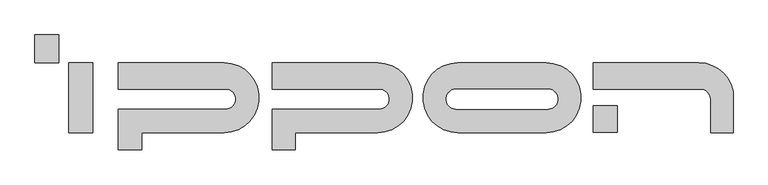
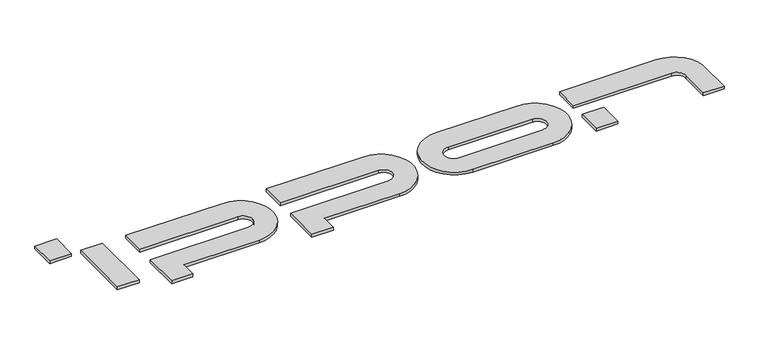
"""IFC4 building model written with IfcOpenShell, lengths in millimetres: proxy geometry, IPPON_Логотип : IPPON_Логотип."""

from ifc_helpers import new_model, si_unit, point, frame_2d, origin, origin_with_axes, place, context, project, spatial, polyline, circle_curve, trimmed, segment, composite_curve, outline, extrude, source, transform, mapped, element, save


def generic_models_99963152(model_context):
    return source(origin(), model_context, "Body", "SweptSolid", [
        extrude(outline(polyline([(3177.699448, 3681.8024314), (3177.699448, 4101.8024314), (3535.699448, 4101.8024314), (3535.699448, 3681.8024314), (3177.699448, 3681.8024314)])), origin_with_axes(), (0.0, 0.0, 1.0), 50.0),
        extrude(outline(polyline([(11584.1684454, 2635.683186), (11584.1684454, 3035.683186), (11942.1684454, 3035.683186), (11942.1684454, 2635.683186), (11584.1684454, 2635.683186)])), origin_with_axes(), (0.0, 0.0, 1.0), 50.0),
        extrude(outline(polyline([(4048.1413841, 3681.8024314), (4048.1413841, 2631.2925972), (3690.1333405, 2631.2925972), (3690.1333405, 3681.8024314), (4048.1413841, 3681.8024314)])), origin_with_axes(), (0.0, 0.0, 1.0), 50.0),
        extrude(outline(composite_curve([segment(polyline([(4435.8590315, 3285.683186), (4435.8590315, 3681.8024314), (6024.8439739, 3681.8024314)]), True, "CONTINUOUS"), segment(trimmed(circle_curve(frame_2d((6024.8439739, 3156.5475143)), 525.2549171), [point((6024.8439739, 3681.8024314))], [point((6024.8439739, 2631.2925972))], False, "CARTESIAN"), True, "CONTINUOUS"), segment(polyline([(6024.8439739, 2631.2925972), (4786.0289762, 2631.2925972), (4786.0289762, 2374.6349736), (4435.8590315, 2374.6349736), (4435.8590315, 2985.7698761), (6052.2010008, 2985.7698761)]), True, "CONTINUOUS"), segment(trimmed(circle_curve(frame_2d((6052.2010008, 3135.726531)), 149.9566549), [point((6052.2010008, 2985.7698761))], [point((6052.2010008, 3285.683186))], True, "CARTESIAN"), True, "CONTINUOUS"), segment(polyline([(6052.2010008, 3285.683186), (4435.8590315, 3285.683186)]), True, "CONTINUOUS")], self_intersect=False)), origin_with_axes(), (0.0, 0.0, 1.0), 50.0),
        extrude(outline(composite_curve([segment(polyline([(6748.2065684, 3285.683186), (6748.2065684, 3681.8024314), (8337.1915108, 3681.8024314)]), True, "CONTINUOUS"), segment(trimmed(circle_curve(frame_2d((8337.1915108, 3156.5475143)), 525.2549171), [point((8337.1915108, 3681.8024314))], [point((8337.1915108, 2631.2925972))], False, "CARTESIAN"), True, "CONTINUOUS"), segment(polyline([(8337.1915108, 2631.2925972), (7098.3765132, 2631.2925972), (7098.3765132, 2374.6349736), (6748.2065684, 2374.6349736), (6748.2065684, 2985.7698761), (8364.5485377, 2985.7698761)]), True, "CONTINUOUS"), segment(trimmed(circle_curve(frame_2d((8364.5485377, 3135.726531)), 149.9566549), [point((8364.5485377, 2985.7698761))], [point((8364.5485377, 3285.683186))], True, "CARTESIAN"), True, "CONTINUOUS"), segment(polyline([(8364.5485377, 3285.683186), (6748.2065684, 3285.683186)]), True, "CONTINUOUS")], self_intersect=False)), origin_with_axes(), (0.0, 0.0, 1.0), 50.0),
        extrude(outline(composite_curve([segment(polyline([(10875.9689341, 2631.2925972), (9545.3231442, 2631.2925972)]), True, "CONTINUOUS"), segment(trimmed(circle_curve(frame_2d((9545.3231442, 3156.5475143)), 525.2549171), [point((9545.3231442, 2631.2925972))], [point((9545.3231442, 3681.8024314))], False, "CARTESIAN"), True, "CONTINUOUS"), segment(polyline([(9545.3231442, 3681.8024314), (10875.9689341, 3681.8024314)]), True, "CONTINUOUS"), segment(trimmed(circle_curve(frame_2d((10875.9689341, 3156.5475143)), 525.2549171), [point((10875.9689341, 3681.8024314))], [point((10875.9689341, 2631.2925972))], False, "CARTESIAN"), True, "CONTINUOUS")], self_intersect=False), holes=[composite_curve([segment(trimmed(circle_curve(frame_2d((10903.325961, 3135.726531)), 149.9566549), [point((10903.325961, 2985.7698761))], [point((10903.325961, 3285.683186))], True, "CARTESIAN"), True, "CONTINUOUS"), segment(polyline([(10903.325961, 3285.683186), (9517.9661172, 3285.683186)]), True, "CONTINUOUS"), segment(trimmed(circle_curve(frame_2d((9517.9661172, 3135.726531)), 149.9566549), [point((9517.9661172, 3285.683186))], [point((9517.9661172, 2985.7698761))], True, "CARTESIAN"), True, "CONTINUOUS"), segment(polyline([(9517.9661172, 2985.7698761), (10903.325961, 2985.7698761)]), True, "CONTINUOUS")], self_intersect=False)]), origin_with_axes(), (0.0, 0.0, 1.0), 50.0),
        extrude(outline(composite_curve([segment(polyline([(11584.1684454, 3285.683186), (11584.1684454, 3681.8024314), (13173.1533878, 3681.8024314)]), True, "CONTINUOUS"), segment(trimmed(circle_curve(frame_2d((13173.1533878, 3156.5475143)), 525.2549171), [point((13173.1533878, 3681.8024314))], [point((13690.1333405, 3249.4154658))], False, "CARTESIAN"), True, "CONTINUOUS"), segment(polyline([(13690.1333405, 3249.4154658), (13690.1333405, 2631.2925972), (13350.4670696, 2631.2925972), (13350.4670696, 3135.726531)]), True, "CONTINUOUS"), segment(trimmed(circle_curve(frame_2d((13200.5104147, 3135.726531)), 149.9566549), [point((13350.4670696, 3135.726531))], [point((13200.5104147, 3285.683186))], True, "CARTESIAN"), True, "CONTINUOUS"), segment(polyline([(13200.5104147, 3285.683186), (11584.1684454, 3285.683186)]), True, "CONTINUOUS")], self_intersect=False)), origin_with_axes(), (0.0, 0.0, 1.0), 50.0),
    ])


if __name__ == "__main__":
    model = new_model("IFC4")
    model_context = context("Model", 3, world=origin())
    ifc_project = project(units=[si_unit("LENGTHUNIT", "METRE", prefix="MILLI")], contexts=[model_context])
    site = spatial("IfcSite", under=ifc_project)
    building = spatial("IfcBuilding", under=site)
    placement = place(None, origin())
    generic_models_shape = generic_models_99963152(model_context)
    element("IfcBuildingElementProxy", 1, Name="IPPON_Логотип : IPPON_Логотип", ObjectType="IPPON_Логотип : IPPON_Логотип", at=placement, inside=building, context=model_context, shape_type="MappedRepresentation", body=[
        mapped(generic_models_shape, transform((0.0, 0.0, 0.0), x_axis=(1.0, 0.0, 0.0), y_axis=(0.0, 1.0, 0.0), z_axis=(0.0, 0.0, 1.0))),
    ])
    save(model, "model.ifc")
